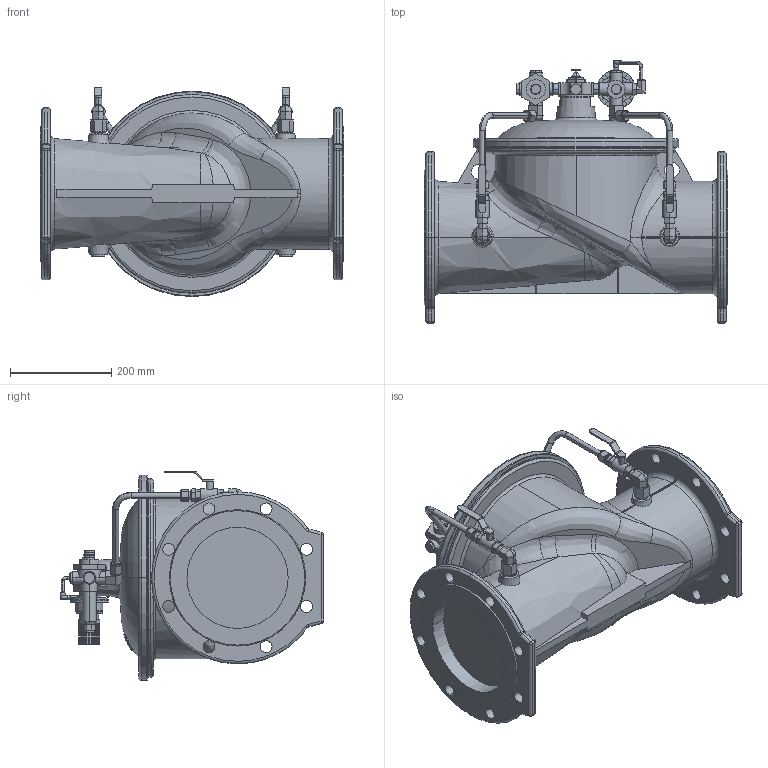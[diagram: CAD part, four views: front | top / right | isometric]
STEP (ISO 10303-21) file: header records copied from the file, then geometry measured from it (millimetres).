
FILE_DESCRIPTION (( 'STEP AP203' ), '1' );
FILE_NAME ('O_859_00_DN200_0XXXX00_REV02.step', '2020-10-15T07:46:21', ( '' ), ( '' ), 'SwSTEP 2.0', 'SolidWorks 2019', '' );
FILE_SCHEMA (( 'CONFIG_CONTROL_DESIGN' ));
Length unit declared in the file: millimetre
Products named in the file (1): O_859_00_DN200_0XXXX00_REV02
Bounding box: 600 x 520 x 413.39 mm (x, y, z)
Volume: 34690511.2 mm3; surface area: 1189563.3 mm2
Topology: 1 solids, 1 shells, 1109 faces, 2760 edges, 1722 vertices
Faces by surface type: plane 552, cylinder 311, cone 126, torus 82, bspline 30, sphere 8
Entity records: 39118 total; most frequent: CARTESIAN_POINT 12800, DIRECTION 5506, ORIENTED_EDGE 5504, EDGE_CURVE 2752, AXIS2_PLACEMENT_3D 2111, VERTEX_POINT 1722, VECTOR 1284, LINE 1284
